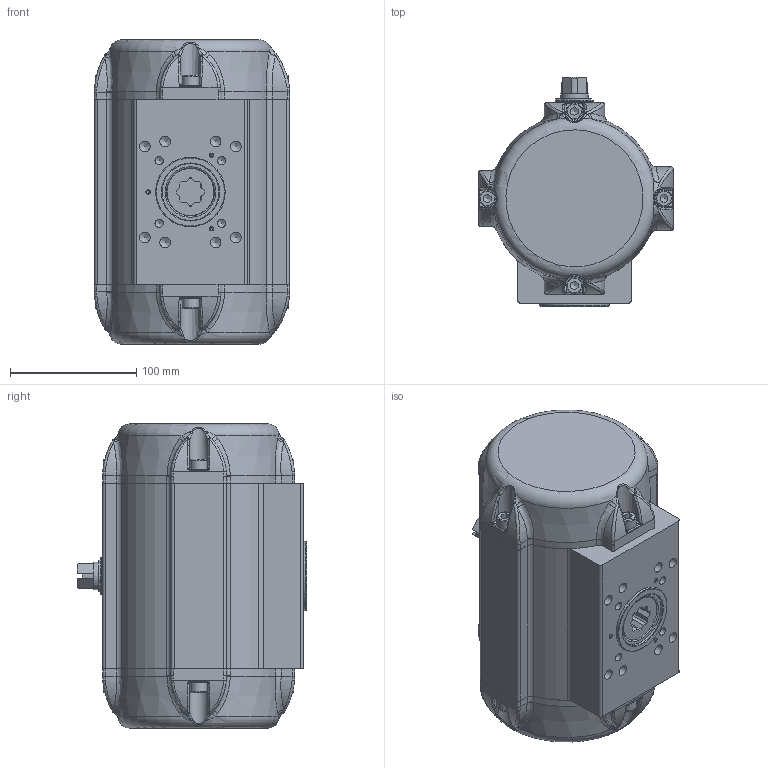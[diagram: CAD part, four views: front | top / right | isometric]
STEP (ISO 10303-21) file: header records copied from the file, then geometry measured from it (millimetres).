
FILE_DESCRIPTION((''),'2;1');
FILE_NAME('Z:\DOKUMENTATION ANTRIEBSPROGRAMM\Antriebe (neu)\BR16_SAD_SAF_90°\STEP-Dateien\25\SAF_25_BR16.stp','2017-06-20T10:37:42',('vmi'),(''),'Autodesk Inventor 2013','Autodesk Inventor 2013','');
FILE_SCHEMA(('AUTOMOTIVE_DESIGN { 1 0 10303 214 1 1 1 1 }'));
Length unit declared in the file: millimetre
Products named in the file (1): ENG-084371_Shrinkwrap_1
Bounding box: 154.5 x 181.5 x 241 mm (x, y, z)
Surface area: 189333.5 mm2 (no closed solid volume)
Topology: 0 solids, 23 shells, 557 faces, 1723 edges, 1143 vertices
Faces by surface type: cylinder 160, plane 157, bspline 147, cone 50, torus 43
Full cylindrical faces by diameter (mm): 2 x2, 2.5 x3, 4.134 x8, 4.917 x1, 5 x1, 6.647 x4, 8.376 x8, 11.445 x2, 13 x8, 20 x1, 20.7 x1, 21.8 x1, 28 x1, 30 x2, 45 x1, 55 x1
Entity records: 24276 total; most frequent: CARTESIAN_POINT 10090, ORIENTED_EDGE 2791, DIRECTION 2459, EDGE_CURVE 1575, VERTEX_POINT 1099, AXIS2_PLACEMENT_3D 982, EDGE_LOOP 696, FACE_OUTER_BOUND 557
